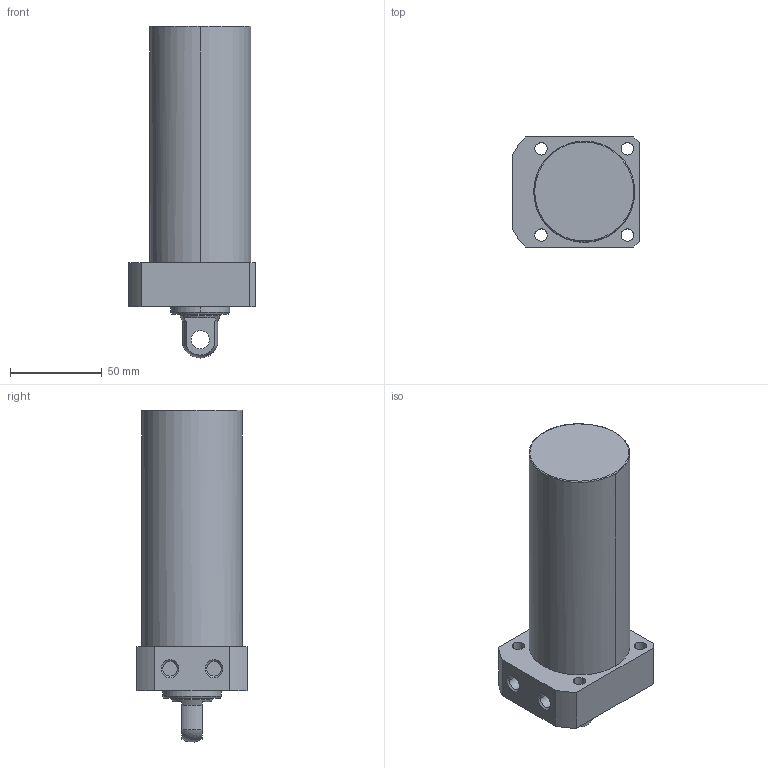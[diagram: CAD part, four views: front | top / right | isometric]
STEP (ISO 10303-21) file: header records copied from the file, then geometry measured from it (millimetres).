
FILE_DESCRIPTION((' '),'2;1');
FILE_NAME( 'TLLR-055CP-100.STEP.stp', '2025-10-24T16:34:51', (' '), ('--- Datakit www.datakit.com---'), ' Datakit CrossCadWare V2024.1 Dec 21 2023', 'Mastercam 2025', ' ');
FILE_SCHEMA(('AUTOMOTIVE_DESIGN { 1 0 10303 214 1 1 1 1 }'));
Length unit declared in the file: millimetre
Products named in the file (1): TLLR-055CP-100
Bounding box: 69 x 60 x 180.93 mm (x, y, z)
Volume: 406005.9 mm3; surface area: 40507.7 mm2
Topology: 1 solids, 1 shells, 57 faces, 164 edges, 116 vertices
Faces by surface type: cylinder 28, plane 18, cone 8, torus 2, sphere 1
Entity records: 2006 total; most frequent: DIRECTION 378, CARTESIAN_POINT 350, ORIENTED_EDGE 328, EDGE_CURVE 164, AXIS2_PLACEMENT_3D 160, VERTEX_POINT 116, CIRCLE 102, EDGE_LOOP 74
